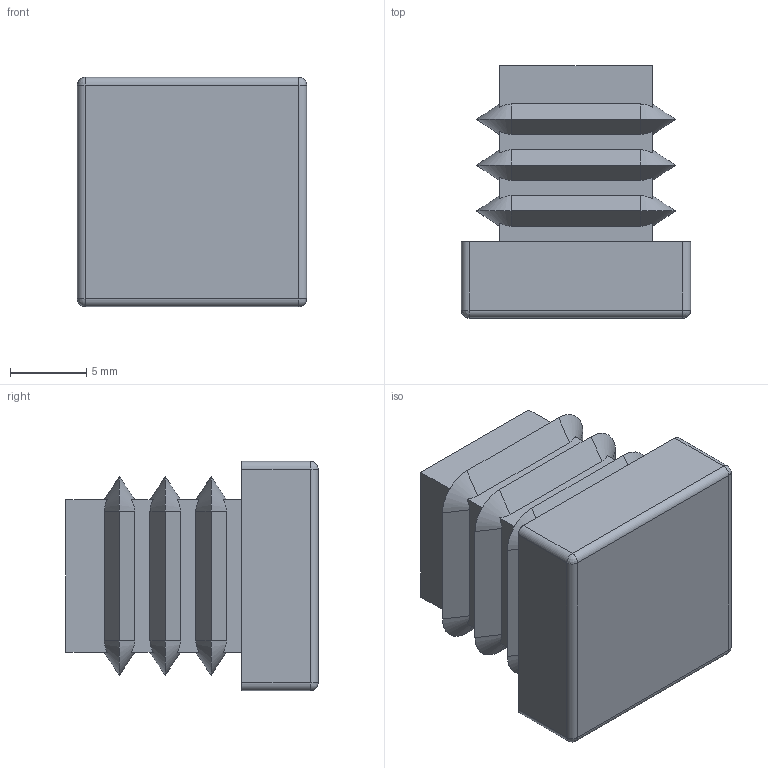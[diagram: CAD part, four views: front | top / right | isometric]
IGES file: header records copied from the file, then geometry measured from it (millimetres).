
Start section: SolidWorks IGES file using analytic representation for surfaces
Global section: file name: C:\HEMSIDA\cad\SLDPRT_2015\ifr\\ifr_15.igs; native system: SolidWorks 2015; preprocessor: SolidWorks 2015; author: Magnus; date: 150818.111750; units: millimetre
Bounding box: 15 x 16.5 x 15 mm (x, y, z)
Surface area: 1789.4 mm2 (no closed solid volume)
Topology: 0 solids, 0 shells, 88 faces, 640 edges, 636 vertices
Faces by surface type: bspline 52, revolution 36
